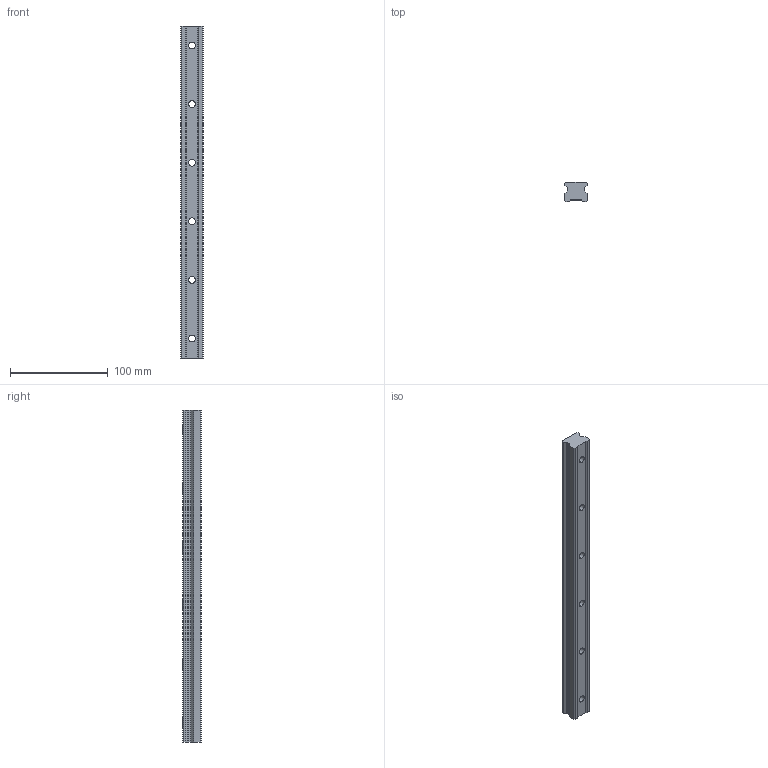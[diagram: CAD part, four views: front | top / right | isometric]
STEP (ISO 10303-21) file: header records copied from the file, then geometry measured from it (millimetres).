
FILE_DESCRIPTION (( 'STEP AP203' ), '1' );
FILE_NAME ('L1016.BL25-0340.step', '2019-06-12T12:04:27', ( '' ), ( '' ), 'SwSTEP 2.0', 'SolidWorks 2017', '' );
FILE_SCHEMA (( 'CONFIG_CONTROL_DESIGN' ));
Length unit declared in the file: millimetre
Products named in the file (1): L1016.BL25-0340
Bounding box: 23 x 19.2 x 340 mm (x, y, z)
Volume: 124940.6 mm3; surface area: 32984.6 mm2
Topology: 1 solids, 1 shells, 56 faces, 144 edges, 96 vertices
Faces by surface type: cylinder 28, plane 28
Entity records: 1825 total; most frequent: DIRECTION 314, CARTESIAN_POINT 297, ORIENTED_EDGE 288, EDGE_CURVE 144, AXIS2_PLACEMENT_3D 113, VERTEX_POINT 96, LINE 88, VECTOR 88
